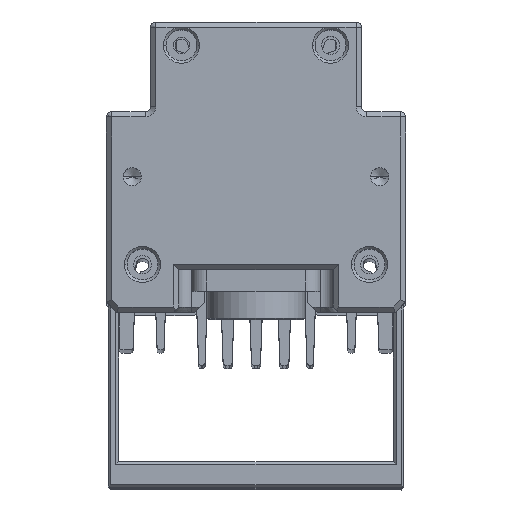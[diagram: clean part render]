
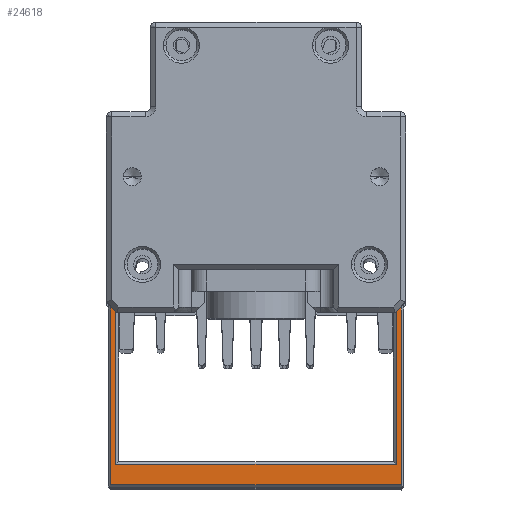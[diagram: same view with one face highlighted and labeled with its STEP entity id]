
A CAD part, top view. The second image highlights one B-rep face of the part: STEP entity #24618.
In plain terms, the highlighted planar face has unit normal (0, 0, 1).
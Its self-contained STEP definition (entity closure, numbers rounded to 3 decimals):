
#23596=DIRECTION('',(1.,0.,0.));
#23597=VECTOR('',#23596,5.15);
#23598=CARTESIAN_POINT('',(23.,-20.6,172.));
#23599=LINE('',#23598,#23597);
#23600=DIRECTION('',(0.,-1.,0.));
#23601=VECTOR('',#23600,40.5);
#23602=CARTESIAN_POINT('',(28.15,-20.6,172.));
#23603=LINE('',#23602,#23601);
#23604=DIRECTION('',(-1.,0.,0.));
#23605=VECTOR('',#23604,56.3);
#23606=CARTESIAN_POINT('',(28.15,-61.1,172.));
#23607=LINE('',#23606,#23605);
#23608=DIRECTION('',(0.,1.,0.));
#23609=VECTOR('',#23608,40.5);
#23610=CARTESIAN_POINT('',(-28.15,-61.1,172.));
#23611=LINE('',#23610,#23609);
#23612=DIRECTION('',(1.,0.,0.));
#23613=VECTOR('',#23612,5.15);
#23614=CARTESIAN_POINT('',(-28.15,-20.6,172.));
#23615=LINE('',#23614,#23613);
#23616=DIRECTION('',(0.,-1.,0.));
#23617=VECTOR('',#23616,1.);
#23618=CARTESIAN_POINT('',(-23.,-20.6,172.));
#23619=LINE('',#23618,#23617);
#23620=DIRECTION('',(-1.,0.,0.));
#23621=VECTOR('',#23620,4.15);
#23622=CARTESIAN_POINT('',(-23.,-21.6,172.));
#23623=LINE('',#23622,#23621);
#23624=DIRECTION('',(0.,-1.,0.));
#23625=VECTOR('',#23624,35.5);
#23626=CARTESIAN_POINT('',(-27.15,-21.6,172.));
#23627=LINE('',#23626,#23625);
#23628=DIRECTION('',(1.,0.,0.));
#23629=VECTOR('',#23628,54.3);
#23630=CARTESIAN_POINT('',(-27.15,-57.1,172.));
#23631=LINE('',#23630,#23629);
#23632=DIRECTION('',(0.,1.,0.));
#23633=VECTOR('',#23632,35.5);
#23634=CARTESIAN_POINT('',(27.15,-57.1,172.));
#23635=LINE('',#23634,#23633);
#23636=DIRECTION('',(-1.,0.,0.));
#23637=VECTOR('',#23636,4.15);
#23638=CARTESIAN_POINT('',(27.15,-21.6,172.));
#23639=LINE('',#23638,#23637);
#23640=DIRECTION('',(0.,1.,0.));
#23641=VECTOR('',#23640,1.);
#23642=CARTESIAN_POINT('',(23.,-21.6,172.));
#23643=LINE('',#23642,#23641);
#23976=CARTESIAN_POINT('',(-23.,-21.6,172.));
#23977=VERTEX_POINT('',#23976);
#23978=CARTESIAN_POINT('',(-23.,-20.6,172.));
#23979=VERTEX_POINT('',#23978);
#24020=CARTESIAN_POINT('',(-28.15,-20.6,172.));
#24021=VERTEX_POINT('',#24020);
#24022=CARTESIAN_POINT('',(-28.15,-61.1,172.));
#24023=VERTEX_POINT('',#24022);
#24024=CARTESIAN_POINT('',(23.,-20.6,172.));
#24025=CARTESIAN_POINT('',(28.15,-20.6,172.));
#24026=VERTEX_POINT('',#24024);
#24027=VERTEX_POINT('',#24025);
#24028=CARTESIAN_POINT('',(28.15,-61.1,172.));
#24029=VERTEX_POINT('',#24028);
#24030=CARTESIAN_POINT('',(-27.15,-21.6,172.));
#24031=VERTEX_POINT('',#24030);
#24032=CARTESIAN_POINT('',(-27.15,-57.1,172.));
#24033=VERTEX_POINT('',#24032);
#24034=CARTESIAN_POINT('',(27.15,-57.1,172.));
#24035=VERTEX_POINT('',#24034);
#24036=CARTESIAN_POINT('',(27.15,-21.6,172.));
#24037=VERTEX_POINT('',#24036);
#24038=CARTESIAN_POINT('',(23.,-21.6,172.));
#24039=VERTEX_POINT('',#24038);
#24594=CARTESIAN_POINT('',(0.,0.,172.));
#24595=DIRECTION('',(0.,0.,1.));
#24596=DIRECTION('',(-1.,0.,0.));
#24597=AXIS2_PLACEMENT_3D('',#24594,#24595,#24596);
#24598=PLANE('',#24597);
#24599=ORIENTED_EDGE('',*,*,#24430,.T.);
#24600=ORIENTED_EDGE('',*,*,#24450,.T.);
#24601=ORIENTED_EDGE('',*,*,#24542,.T.);
#24602=ORIENTED_EDGE('',*,*,#24558,.T.);
#24603=ORIENTED_EDGE('',*,*,#24576,.T.);
#24604=ORIENTED_EDGE('',*,*,#24286,.T.);
#24606=ORIENTED_EDGE('',*,*,#24605,.T.);
#24608=ORIENTED_EDGE('',*,*,#24607,.T.);
#24610=ORIENTED_EDGE('',*,*,#24609,.T.);
#24612=ORIENTED_EDGE('',*,*,#24611,.T.);
#24614=ORIENTED_EDGE('',*,*,#24613,.T.);
#24615=ORIENTED_EDGE('',*,*,#24409,.T.);
#24616=EDGE_LOOP('',(#24599,#24600,#24601,#24602,#24603,#24604,#24606,#24608,
#24610,#24612,#24614,#24615));
#24617=FACE_OUTER_BOUND('',#24616,.F.);
#24618=ADVANCED_FACE('',(#24617),#24598,.T.);
#24286=EDGE_CURVE('',#23979,#23977,#23619,.T.);
#24409=EDGE_CURVE('',#24039,#24026,#23643,.T.);
#24430=EDGE_CURVE('',#24026,#24027,#23599,.T.);
#24450=EDGE_CURVE('',#24027,#24029,#23603,.T.);
#24542=EDGE_CURVE('',#24029,#24023,#23607,.T.);
#24558=EDGE_CURVE('',#24023,#24021,#23611,.T.);
#24576=EDGE_CURVE('',#24021,#23979,#23615,.T.);
#24605=EDGE_CURVE('',#23977,#24031,#23623,.T.);
#24607=EDGE_CURVE('',#24031,#24033,#23627,.T.);
#24609=EDGE_CURVE('',#24033,#24035,#23631,.T.);
#24611=EDGE_CURVE('',#24035,#24037,#23635,.T.);
#24613=EDGE_CURVE('',#24037,#24039,#23639,.T.);
